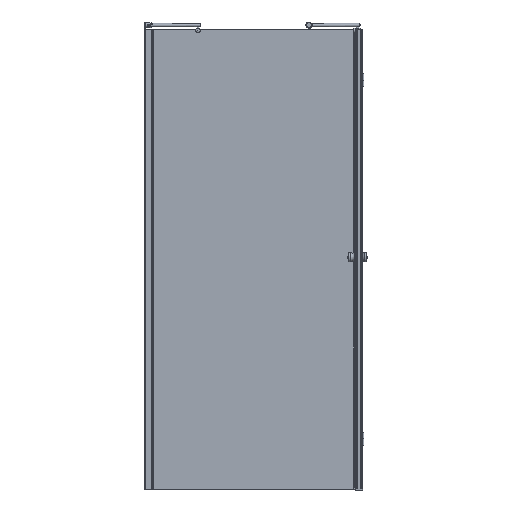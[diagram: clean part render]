
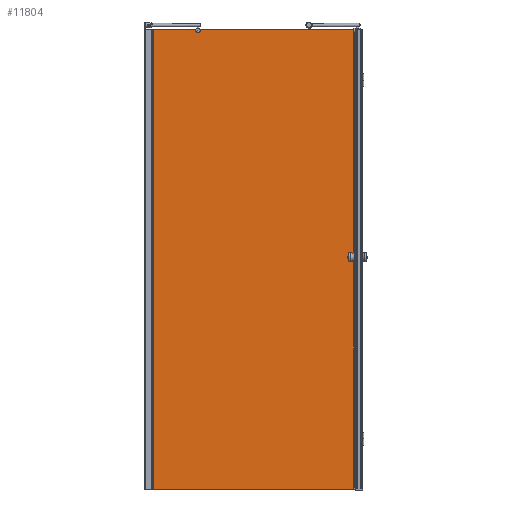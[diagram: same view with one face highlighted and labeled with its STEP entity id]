
A CAD part, front view. The second image highlights one B-rep face of the part: STEP entity #11804.
In plain terms, the highlighted planar face has unit normal (0, -1, 0).
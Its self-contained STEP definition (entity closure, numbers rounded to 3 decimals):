
#30=ELLIPSE($,#12674,0.5,0.5);
#31=ELLIPSE($,#12678,16.,16.);
#297=LINE($,#17027,#1438);
#524=LINE($,#17888,#1665);
#590=LINE($,#18102,#1731);
#859=LINE($,#18830,#2000);
#984=LINE($,#19246,#2125);
#1003=LINE($,#19327,#2144);
#1006=LINE($,#19345,#2147);
#1139=LINE($,#19846,#2280);
#1174=LINE($,#19938,#2315);
#1438=VECTOR($,#13574,180.474);
#1665=VECTOR($,#14061,1899.);
#1731=VECTOR($,#14285,1.);
#2000=VECTOR($,#14944,3.581);
#2125=VECTOR($,#15385,0.019);
#2144=VECTOR($,#15428,11.4);
#2147=VECTOR($,#15435,1885.584);
#2280=VECTOR($,#15848,829.4);
#2315=VECTOR($,#15965,636.666);
#3240=FACE_OUTER_BOUND($,#3925,.T.);
#3925=EDGE_LOOP($,(#9980,#9981,#9982,#9983,#9984,#9985,#9986,#9987,#9988,
#9989,#9990,#9991,#9992));
#4035=CIRCLE($,#12042,10.);
#4208=CIRCLE($,#12460,2.);
#4538=VERTEX_POINT($,#16796);
#4539=VERTEX_POINT($,#16797);
#4568=VERTEX_POINT($,#17025);
#4835=VERTEX_POINT($,#17886);
#4836=VERTEX_POINT($,#17887);
#5058=VERTEX_POINT($,#18794);
#5059=VERTEX_POINT($,#18795);
#5072=VERTEX_POINT($,#18828);
#5132=VERTEX_POINT($,#19245);
#5152=VERTEX_POINT($,#19310);
#5156=VERTEX_POINT($,#19342);
#5157=VERTEX_POINT($,#19344);
#5180=VERTEX_POINT($,#19461);
#5635=EDGE_CURVE($,#4538,#4539,#4035,.T.);
#5673=EDGE_CURVE($,#4568,#4538,#297,.T.);
#5989=EDGE_CURVE($,#4835,#4836,#524,.T.);
#6098=EDGE_CURVE($,#4568,#4835,#590,.T.);
#6413=EDGE_CURVE($,#5058,#5059,#4208,.T.);
#6430=EDGE_CURVE($,#5072,#5058,#859,.T.);
#6593=EDGE_CURVE($,#5132,#5059,#984,.T.);
#6620=EDGE_CURVE($,#5152,#5072,#1003,.T.);
#6625=EDGE_CURVE($,#5156,#5157,#1006,.T.);
#6670=EDGE_CURVE($,#5180,#5152,#30,.T.);
#6673=EDGE_CURVE($,#5157,#5180,#31,.T.);
#6829=EDGE_CURVE($,#4836,#5132,#1139,.T.);
#6872=EDGE_CURVE($,#4539,#5156,#1174,.T.);
#9980=ORIENTED_EDGE($,*,*,#5635,.F.);
#9981=ORIENTED_EDGE($,*,*,#5673,.F.);
#9982=ORIENTED_EDGE($,*,*,#6098,.T.);
#9983=ORIENTED_EDGE($,*,*,#5989,.T.);
#9984=ORIENTED_EDGE($,*,*,#6829,.T.);
#9985=ORIENTED_EDGE($,*,*,#6593,.T.);
#9986=ORIENTED_EDGE($,*,*,#6413,.F.);
#9987=ORIENTED_EDGE($,*,*,#6430,.F.);
#9988=ORIENTED_EDGE($,*,*,#6620,.F.);
#9989=ORIENTED_EDGE($,*,*,#6670,.F.);
#9990=ORIENTED_EDGE($,*,*,#6673,.F.);
#9991=ORIENTED_EDGE($,*,*,#6625,.F.);
#9992=ORIENTED_EDGE($,*,*,#6872,.F.);
#10520=PLANE($,#12823);
#11804=ADVANCED_FACE($,(#3240),#10520,.F.);
#12042=AXIS2_PLACEMENT_3D($,#16798,#13505,#13506);
#12460=AXIS2_PLACEMENT_3D($,#18796,#14912,#14913);
#12674=AXIS2_PLACEMENT_3D($,#19463,#15524,#15525);
#12678=AXIS2_PLACEMENT_3D($,#19469,#15533,#15534);
#12823=AXIS2_PLACEMENT_3D($,#19937,#15963,#15964);
#13505=DIRECTION('center_axis',(0.,-1.,0.));
#13506=DIRECTION('ref_axis',(-0.597,0.,0.802));
#13574=DIRECTION($,(1.,0.,0.));
#14061=DIRECTION($,(0.,0.,-1.));
#14285=DIRECTION($,(0.,0.,-1.));
#14912=DIRECTION('center_axis',(0.,-1.,0.));
#14913=DIRECTION('ref_axis',(-1.,0.,0.));
#14944=DIRECTION($,(-1.,0.,0.));
#15385=DIRECTION($,(1.,0.,0.));
#15428=DIRECTION($,(0.,0.,-1.));
#15435=DIRECTION($,(0.,0.,-1.));
#15524=DIRECTION('center_axis',(0.,-1.,0.));
#15525=DIRECTION('ref_axis',(1.,0.,0.));
#15533=DIRECTION('center_axis',(0.,1.,0.));
#15534=DIRECTION('ref_axis',(-1.,0.,0.));
#15848=DIRECTION($,(1.,0.,0.));
#15963=DIRECTION('center_axis',(0.,1.,0.));
#15964=DIRECTION('ref_axis',(1.,0.,0.));
#15965=DIRECTION($,(1.,0.,0.));
#16796=CARTESIAN_POINT('',(576.493,1719.956,1385.944));
#16797=CARTESIAN_POINT('',(594.353,1719.956,1385.944));
#16798=CARTESIAN_POINT('Origin',(585.423,1719.956,1381.444));
#17025=CARTESIAN_POINT('',(396.019,1719.956,1385.944));
#17027=CARTESIAN_POINT($,(396.019,1719.956,1385.944));
#17886=CARTESIAN_POINT('',(396.019,1719.956,1384.944));
#17887=CARTESIAN_POINT('',(396.019,1719.956,-514.056));
#17888=CARTESIAN_POINT($,(396.019,1719.956,1385.944));
#18102=CARTESIAN_POINT($,(396.019,1719.956,1385.944));
#18794=CARTESIAN_POINT('',(1227.438,1719.956,-512.056));
#18795=CARTESIAN_POINT('',(1225.438,1719.956,-514.056));
#18796=CARTESIAN_POINT('Origin',(1227.438,1719.956,-514.056));
#18828=CARTESIAN_POINT('',(1231.019,1719.956,-512.056));
#18830=CARTESIAN_POINT($,(811.729,1719.956,-512.056));
#19245=CARTESIAN_POINT('',(1225.419,1719.956,-514.056));
#19246=CARTESIAN_POINT($,(396.019,1719.956,-514.056));
#19310=CARTESIAN_POINT('',(1231.019,1719.956,-500.655));
#19327=CARTESIAN_POINT($,(1231.019,1719.956,1385.944));
#19342=CARTESIAN_POINT('',(1231.019,1719.956,1385.944));
#19344=CARTESIAN_POINT('',(1231.019,1719.956,-499.64));
#19345=CARTESIAN_POINT($,(1231.019,1719.956,1385.944));
#19461=CARTESIAN_POINT('',(1230.897,1719.956,-499.667));
#19463=CARTESIAN_POINT('Origin',(1231.001,1719.956,-500.156));
#19469=CARTESIAN_POINT('Origin',(1227.547,1719.956,-484.021));
#19846=CARTESIAN_POINT($,(396.019,1719.956,-514.056));
#19937=CARTESIAN_POINT('Origin',(396.019,1719.956,1385.944));
#19938=CARTESIAN_POINT($,(396.019,1719.956,1385.944));
